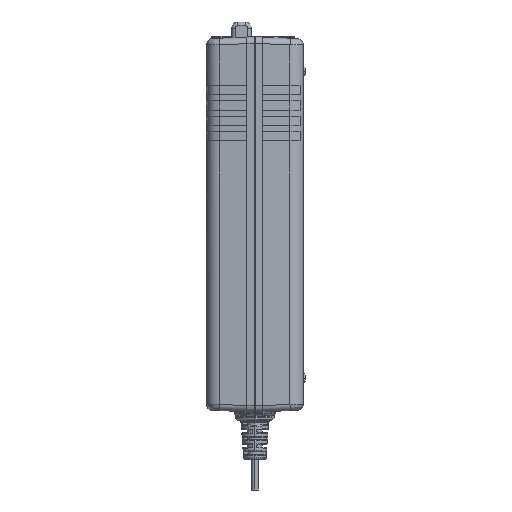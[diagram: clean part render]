
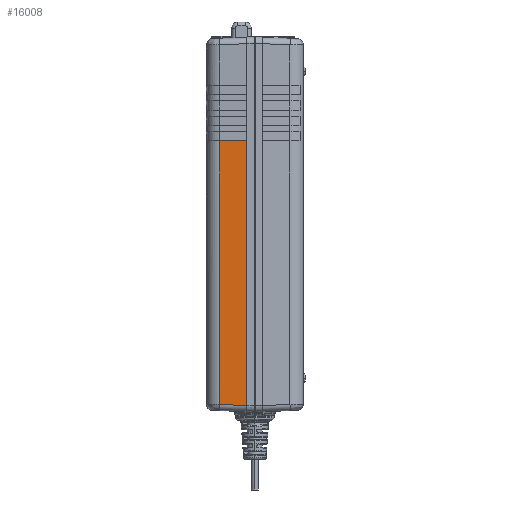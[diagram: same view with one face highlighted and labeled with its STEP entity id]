
A CAD part, left-side view. The second image highlights one B-rep face of the part: STEP entity #16008.
In plain terms, the highlighted planar face has unit normal (-0.999, 0.044, 0).
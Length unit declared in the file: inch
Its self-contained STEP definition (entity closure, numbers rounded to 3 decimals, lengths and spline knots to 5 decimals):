
#299 = VECTOR ( 'NONE', #67008, 39.37008 ) ;
#1071 = ORIENTED_EDGE ( 'NONE', *, *, #21537, .F. ) ;
#6494 = CARTESIAN_POINT ( 'NONE',  ( -0.98452, 0.45064, -2.30738 ) ) ;
#9544 = VECTOR ( 'NONE', #20045, 39.37008 ) ;
#9682 = AXIS2_PLACEMENT_3D ( 'NONE', #65717, #41481, #79346 ) ;
#13284 = PLANE ( 'NONE',  #9682 ) ;
#14812 = EDGE_CURVE ( 'NONE', #47155, #80739, #49222, .T. ) ;
#15330 = EDGE_CURVE ( 'NONE', #80739, #15381, #28173, .T. ) ;
#15381 = VERTEX_POINT ( 'NONE', #72868 ) ;
#16008 = ADVANCED_FACE ( 'NONE', ( #71584 ), #13284, .T. ) ;
#20045 = DIRECTION ( 'NONE',  ( -0.044, -0.998, -0.035 ) ) ;
#21537 = EDGE_CURVE ( 'NONE', #71445, #15381, #25786, .T. ) ;
#22305 = VECTOR ( 'NONE', #66567, 39.37008 ) ;
#25786 = LINE ( 'NONE', #85056, #61317 ) ;
#28173 = LINE ( 'NONE', #44185, #299 ) ;
#28235 = CARTESIAN_POINT ( 'NONE',  ( -0.98452, 0.45064, 1.07321 ) ) ;
#29179 = CARTESIAN_POINT ( 'NONE',  ( -0.98452, 0.45064, 1.07321 ) ) ;
#36951 = LINE ( 'NONE', #29179, #22305 ) ;
#38512 = CARTESIAN_POINT ( 'NONE',  ( -0.99964, 0.10433, -2.31947 ) ) ;
#41481 = DIRECTION ( 'NONE',  ( -0.999, 0.044, 0. ) ) ;
#41650 = ORIENTED_EDGE ( 'NONE', *, *, #15330, .T. ) ;
#44185 = CARTESIAN_POINT ( 'NONE',  ( -0.99964, 0.10433, -2.46448 ) ) ;
#47155 = VERTEX_POINT ( 'NONE', #6494 ) ;
#47981 = ORIENTED_EDGE ( 'NONE', *, *, #14812, .T. ) ;
#49222 = LINE ( 'NONE', #72039, #9544 ) ;
#53523 = DIRECTION ( 'NONE',  ( -0.044, -0.999, 0. ) ) ;
#61317 = VECTOR ( 'NONE', #53523, 39.37008 ) ;
#62926 = EDGE_LOOP ( 'NONE', ( #47981, #41650, #1071, #81278 ) ) ;
#65717 = CARTESIAN_POINT ( 'NONE',  ( -1.00394, 0.00591, -2.46448 ) ) ;
#66567 = DIRECTION ( 'NONE',  ( 0., 0., 1. ) ) ;
#67008 = DIRECTION ( 'NONE',  ( 0., 0., 1. ) ) ;
#71445 = VERTEX_POINT ( 'NONE', #28235 ) ;
#71584 = FACE_OUTER_BOUND ( 'NONE', #62926, .T. ) ;
#72039 = CARTESIAN_POINT ( 'NONE',  ( -0.98452, 0.45064, -2.30738 ) ) ;
#72868 = CARTESIAN_POINT ( 'NONE',  ( -0.99964, 0.10433, 1.07321 ) ) ;
#79346 = DIRECTION ( 'NONE',  ( -0.044, -0.999, 0. ) ) ;
#80739 = VERTEX_POINT ( 'NONE', #38512 ) ;
#81034 = EDGE_CURVE ( 'NONE', #47155, #71445, #36951, .T. ) ;
#81278 = ORIENTED_EDGE ( 'NONE', *, *, #81034, .F. ) ;
#85056 = CARTESIAN_POINT ( 'NONE',  ( -0.98452, 0.45064, 1.07321 ) ) ;
